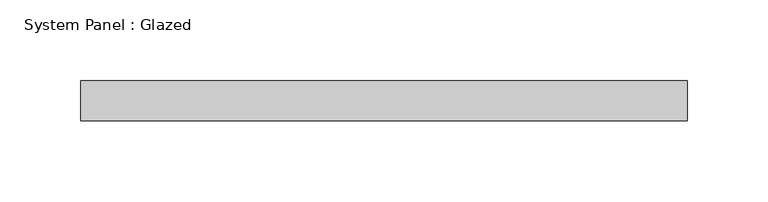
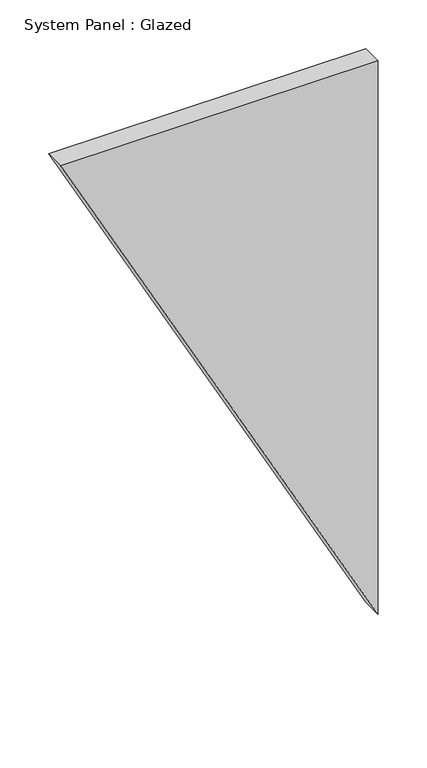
"""IFC4 building model written with IfcOpenShell, lengths in millimetres: plate geometry, System Panel : Glazed."""

from ifc_helpers import new_model, si_unit, frame, origin, place, context, project, spatial, polyline, outline, extrude, source, transform, mapped, element, save


def system_panel_glazed_bd732f67(model_context):
    return source(origin(), model_context, "Body", "SweptSolid", [
        extrude(outline(polyline([(693.8549501, -188.2592558), (0.0, 188.2592558), (693.8549501, 188.2592558), (693.8549501, -188.2592558)])), frame((0.0, -12.5, 0.0), z_axis=(0.0, 1.0, 0.0), x_axis=(0.0, 0.0, 1.0)), (0.0, 0.0, 1.0), 25.0),
    ])


if __name__ == "__main__":
    model = new_model("IFC4")
    model_context = context("Model", 3, world=origin())
    ifc_project = project(units=[si_unit("LENGTHUNIT", "METRE", prefix="MILLI")], contexts=[model_context])
    site = spatial("IfcSite", under=ifc_project)
    building = spatial("IfcBuilding", under=site)
    placement = place(None, origin())
    system_panel_glazed_shape = system_panel_glazed_bd732f67(model_context)
    element("IfcPlate", 1, ObjectType="System Panel : Glazed", at=placement, inside=building, context=model_context, shape_type="MappedRepresentation", body=[
        mapped(system_panel_glazed_shape, transform((0.0, 0.0, 0.0), x_axis=(1.0, 0.0, 0.0), y_axis=(0.0, 1.0, 0.0), z_axis=(0.0, 0.0, 1.0))),
    ])
    save(model, "model.ifc")
